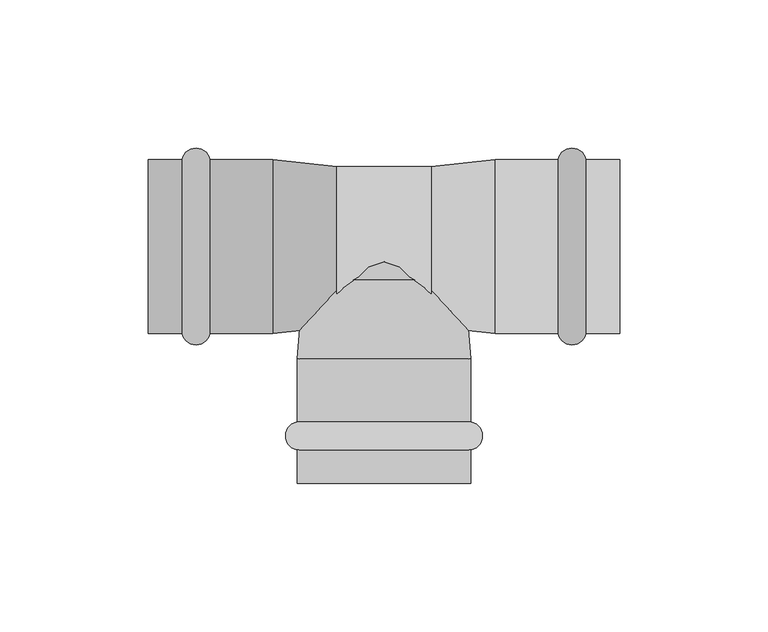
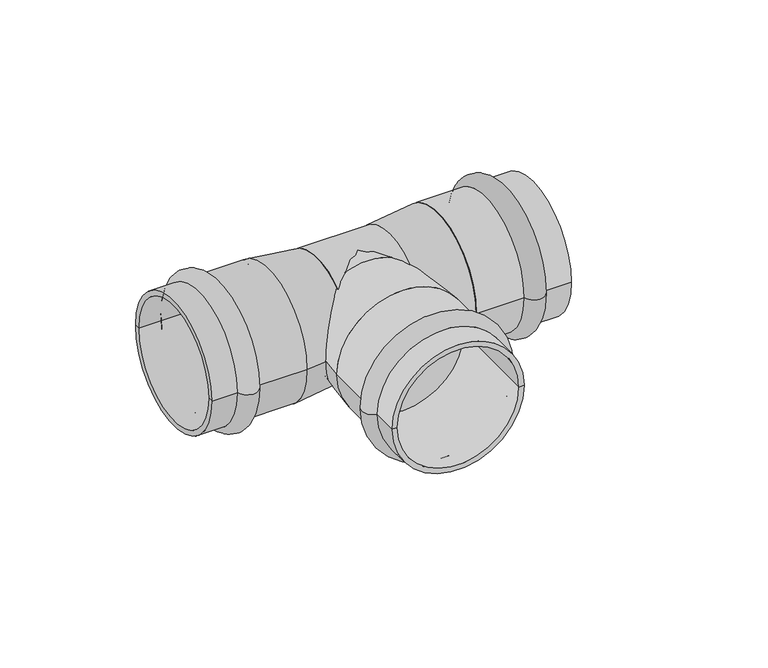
"""IFC4 building model written with IfcOpenShell, lengths in millimetres: pipe fitting geometry, VALTEC_VTi.931.I_Тройник_Ннержавеющая сталь : VTi.931.I."""

from ifc_helpers import new_model, si_unit, point, frame, origin, origin_2d, place, context, project, spatial, polyline, circle_curve, ellipse_curve, trimmed, segment, composite_curve, outline, extrude, source, transform, mapped, element, save
from ifc_brep_helpers import plane_surface, cylinder_surface, revolved_surface, advanced_brep


def pipe_fitting_069f0e93(model_context):
    return source(origin(), model_context, "Body", "SolidModel", [
        advanced_brep(
        [(29.3, -68.6148701, 0.0), (-29.3, -68.6148701, 0.0), (-29.3, -59.1851299, 0.0), (29.3, -59.1851299, 0.0), (29.3, -80.0, 0.0), (-29.3, -80.0, 0.0), (27.0, -80.0, 0.0), (-27.0, -80.0, 0.0), (27.0, -38.0, 0.0), (-27.0, -38.0, 0.0), (29.3, -38.0, 0.0), (-29.3, -38.0, 0.0)],
        [
            (0, 1, circle_curve(frame((0.0, -68.6148701, 0.0), z_axis=(0.0, 1.0, 0.0), x_axis=(-1.0, 0.0, 0.0)), 29.3)),
            (1, 2, circle_curve(frame((-28.4, -63.9, 0.0), z_axis=(0.0, 0.0, -1.0), x_axis=(0.0, 1.0, 0.0)), 4.8)),
            (2, 3, circle_curve(frame((0.0, -59.1851299, 0.0), z_axis=(0.0, -1.0, 0.0), x_axis=(-1.0, 0.0, 0.0)), 29.3)),
            (3, 0, circle_curve(frame((28.4, -63.9, 0.0), z_axis=(0.0, 0.0, -1.0), x_axis=(0.0, 1.0, 0.0)), 4.8)),
            (1, 0, circle_curve(frame((0.0, -68.6148701, 0.0), z_axis=(0.0, 1.0, 0.0), x_axis=(-1.0, 0.0, 0.0)), 29.3)),
            (3, 2, circle_curve(frame((0.0, -59.1851299, 0.0), z_axis=(0.0, -1.0, 0.0), x_axis=(-1.0, 0.0, 0.0)), 29.3)),
            (4, 5, circle_curve(frame((0.0, -80.0, 0.0), z_axis=(0.0, 1.0, 0.0), x_axis=(-1.0, 0.0, 0.0)), 29.3)),
            (5, 1),
            (0, 4),
            (5, 4, circle_curve(frame((0.0, -80.0, 0.0), z_axis=(0.0, 1.0, 0.0), x_axis=(-1.0, 0.0, 0.0)), 29.3)),
            (6, 7, circle_curve(frame((0.0, -80.0, 0.0), z_axis=(0.0, 1.0, 0.0), x_axis=(-1.0, 0.0, 0.0)), 27.0)),
            (7, 5),
            (4, 6),
            (7, 6, circle_curve(frame((0.0, -80.0, 0.0), z_axis=(0.0, 1.0, 0.0), x_axis=(-1.0, 0.0, 0.0)), 27.0)),
            (8, 9, circle_curve(frame((0.0, -38.0, 0.0), z_axis=(0.0, 1.0, 0.0), x_axis=(-1.0, 0.0, 0.0)), 27.0)),
            (9, 7),
            (6, 8),
            (9, 8, circle_curve(frame((0.0, -38.0, 0.0), z_axis=(0.0, 1.0, 0.0), x_axis=(-1.0, 0.0, 0.0)), 27.0)),
            (10, 11, circle_curve(frame((0.0, -38.0, 0.0), z_axis=(0.0, 1.0, 0.0), x_axis=(-1.0, 0.0, 0.0)), 29.3)),
            (11, 9),
            (8, 10),
            (11, 10, circle_curve(frame((0.0, -38.0, 0.0), z_axis=(0.0, 1.0, 0.0), x_axis=(-1.0, 0.0, 0.0)), 29.3)),
            (2, 11),
            (10, 3),
        ],
        [
            revolved_surface(trimmed(ellipse_curve(frame((-28.4, -63.9, 0.0), z_axis=(0.0, 0.0, 1.0), x_axis=(0.0, 1.0, 0.0)), 4.8, 4.8), [point((-29.3, -59.1851299, 0.0))], [point((-29.3, -68.6148701, 0.0))], True, "CARTESIAN"), (0.0, -83.5364426, 0.0), (0.0, -1.0, 0.0)),
            cylinder_surface(frame((0.0, -83.5364426, 0.0), z_axis=(0.0, -1.0, 0.0), x_axis=(-1.0, 0.0, 0.0)), 29.3),
            plane_surface(frame((0.0, -80.0, 0.0), z_axis=(0.0, -1.0, 0.0), x_axis=(-1.0, 0.0, 0.0))),
            revolved_surface(polyline([(-27.0, -80.0, 0.0), (-27.0, -38.0, 0.0)]), (0.0, -83.5364426, 0.0), (0.0, -1.0, 0.0)),
            plane_surface(frame((0.0, -38.0, 0.0), z_axis=(0.0, 1.0, 0.0), x_axis=(-1.0, 0.0, 0.0))),
        ],
        [
            (0, [[1, 2, 3, 4]]),
            (0, [[5, -4, 6, -2]]),
            (1, [[7, 8, -1, 9]]),
            (1, [[10, -9, -5, -8]]),
            (2, [[11, 12, -7, 13]]),
            (2, [[14, -13, -10, -12]]),
            (3, [[15, 16, -11, 17]]),
            (3, [[18, -17, -14, -16]]),
            (4, [[19, 20, -15, 21]]),
            (4, [[22, -21, -18, -20]]),
            (1, [[-3, 23, -19, 24]]),
            (1, [[-6, -24, -22, -23]]),
        ],
    ),
        advanced_brep(
        [(68.1148701, 29.3, 0.0), (68.1148701, -29.3, 0.0), (58.6851299, -29.3, 0.0), (58.6851299, 29.3, 0.0), (79.5, 29.3, 0.0), (79.5, -29.3, 0.0), (79.5, 27.0, 0.0), (79.5, -27.0, 0.0), (37.5, 27.0, 0.0), (37.5, -27.0, 0.0), (37.5, 29.3, 0.0), (37.5, -29.3, 0.0)],
        [
            (0, 1, circle_curve(frame((68.1148701, 0.0, 0.0), z_axis=(-1.0, 0.0, 0.0), x_axis=(0.0, -1.0, 0.0)), 29.3)),
            (1, 2, circle_curve(frame((63.4, -28.4, 0.0), z_axis=(0.0, 0.0, -1.0), x_axis=(-1.0, 0.0, 0.0)), 4.8)),
            (2, 3, circle_curve(frame((58.6851299, 0.0, 0.0), z_axis=(1.0, 0.0, 0.0), x_axis=(0.0, -1.0, 0.0)), 29.3)),
            (3, 0, circle_curve(frame((63.4, 28.4, 0.0), z_axis=(0.0, 0.0, -1.0), x_axis=(-1.0, 0.0, 0.0)), 4.8)),
            (1, 0, circle_curve(frame((68.1148701, 0.0, 0.0), z_axis=(-1.0, 0.0, 0.0), x_axis=(0.0, -1.0, 0.0)), 29.3)),
            (3, 2, circle_curve(frame((58.6851299, 0.0, 0.0), z_axis=(1.0, 0.0, 0.0), x_axis=(0.0, -1.0, 0.0)), 29.3)),
            (4, 5, circle_curve(frame((79.5, 0.0, 0.0), z_axis=(-1.0, 0.0, 0.0), x_axis=(0.0, -1.0, 0.0)), 29.3)),
            (5, 1),
            (0, 4),
            (5, 4, circle_curve(frame((79.5, 0.0, 0.0), z_axis=(-1.0, 0.0, 0.0), x_axis=(0.0, -1.0, 0.0)), 29.3)),
            (6, 7, circle_curve(frame((79.5, 0.0, 0.0), z_axis=(-1.0, 0.0, 0.0), x_axis=(0.0, -1.0, 0.0)), 27.0)),
            (7, 5),
            (4, 6),
            (7, 6, circle_curve(frame((79.5, 0.0, 0.0), z_axis=(-1.0, 0.0, 0.0), x_axis=(0.0, -1.0, 0.0)), 27.0)),
            (8, 9, circle_curve(frame((37.5, 0.0, 0.0), z_axis=(-1.0, 0.0, 0.0), x_axis=(0.0, -1.0, 0.0)), 27.0)),
            (9, 7),
            (6, 8),
            (9, 8, circle_curve(frame((37.5, 0.0, 0.0), z_axis=(-1.0, 0.0, 0.0), x_axis=(0.0, -1.0, 0.0)), 27.0)),
            (10, 11, circle_curve(frame((37.5, 0.0, 0.0), z_axis=(-1.0, 0.0, 0.0), x_axis=(0.0, -1.0, 0.0)), 29.3)),
            (11, 9),
            (8, 10),
            (11, 10, circle_curve(frame((37.5, 0.0, 0.0), z_axis=(-1.0, 0.0, 0.0), x_axis=(0.0, -1.0, 0.0)), 29.3)),
            (2, 11),
            (10, 3),
        ],
        [
            revolved_surface(trimmed(ellipse_curve(frame((63.4, -28.4, 0.0), z_axis=(0.0, 0.0, 1.0), x_axis=(-1.0, 0.0, 0.0)), 4.8, 4.8), [point((58.6851299, -29.3, 0.0))], [point((68.1148701, -29.3, 0.0))], True, "CARTESIAN"), (83.0364426, 0.0, 0.0), (1.0, 0.0, 0.0)),
            cylinder_surface(frame((83.0364426, 0.0, 0.0), z_axis=(1.0, 0.0, 0.0), x_axis=(0.0, -1.0, 0.0)), 29.3),
            plane_surface(frame((79.5, 0.0, 0.0), z_axis=(1.0, 0.0, 0.0), x_axis=(0.0, -1.0, 0.0))),
            revolved_surface(polyline([(79.5, -27.0, 0.0), (37.5, -27.0, 0.0)]), (83.0364426, 0.0, 0.0), (1.0, 0.0, 0.0)),
            plane_surface(frame((37.5, 0.0, 0.0), z_axis=(-1.0, 0.0, 0.0), x_axis=(0.0, -1.0, 0.0))),
        ],
        [
            (0, [[1, 2, 3, 4]]),
            (0, [[5, -4, 6, -2]]),
            (1, [[7, 8, -1, 9]]),
            (1, [[10, -9, -5, -8]]),
            (2, [[11, 12, -7, 13]]),
            (2, [[14, -13, -10, -12]]),
            (3, [[15, 16, -11, 17]]),
            (3, [[18, -17, -14, -16]]),
            (4, [[19, 20, -15, 21]]),
            (4, [[22, -21, -18, -20]]),
            (1, [[-3, 23, -19, 24]]),
            (1, [[-6, -24, -22, -23]]),
        ],
    ),
        advanced_brep(
        [(-68.1148701, -29.3, 0.0), (-68.1148701, 29.3, 0.0), (-58.6851299, 29.3, 0.0), (-58.6851299, -29.3, 0.0), (-79.5, -29.3, 0.0), (-79.5, 29.3, 0.0), (-79.5, -27.0, 0.0), (-79.5, 27.0, 0.0), (-37.5, -27.0, 0.0), (-37.5, 27.0, 0.0), (-37.5, -29.3, 0.0), (-37.5, 29.3, 0.0)],
        [
            (0, 1, circle_curve(frame((-68.1148701, 0.0, 0.0), z_axis=(1.0, 0.0, 0.0), x_axis=(0.0, 1.0, 0.0)), 29.3)),
            (1, 2, circle_curve(frame((-63.4, 28.4, 0.0), z_axis=(0.0, 0.0, -1.0), x_axis=(1.0, 0.0, 0.0)), 4.8)),
            (2, 3, circle_curve(frame((-58.6851299, 0.0, 0.0), z_axis=(-1.0, 0.0, 0.0), x_axis=(0.0, 1.0, 0.0)), 29.3)),
            (3, 0, circle_curve(frame((-63.4, -28.4, 0.0), z_axis=(0.0, 0.0, -1.0), x_axis=(1.0, 0.0, 0.0)), 4.8)),
            (1, 0, circle_curve(frame((-68.1148701, 0.0, 0.0), z_axis=(1.0, 0.0, 0.0), x_axis=(0.0, 1.0, 0.0)), 29.3)),
            (3, 2, circle_curve(frame((-58.6851299, 0.0, 0.0), z_axis=(-1.0, 0.0, 0.0), x_axis=(0.0, 1.0, 0.0)), 29.3)),
            (4, 5, circle_curve(frame((-79.5, 0.0, 0.0), z_axis=(1.0, 0.0, 0.0), x_axis=(0.0, 1.0, 0.0)), 29.3)),
            (5, 1),
            (0, 4),
            (5, 4, circle_curve(frame((-79.5, 0.0, 0.0), z_axis=(1.0, 0.0, 0.0), x_axis=(0.0, 1.0, 0.0)), 29.3)),
            (6, 7, circle_curve(frame((-79.5, 0.0, 0.0), z_axis=(1.0, 0.0, 0.0), x_axis=(0.0, 1.0, 0.0)), 27.0)),
            (7, 5),
            (4, 6),
            (7, 6, circle_curve(frame((-79.5, 0.0, 0.0), z_axis=(1.0, 0.0, 0.0), x_axis=(0.0, 1.0, 0.0)), 27.0)),
            (8, 9, circle_curve(frame((-37.5, 0.0, 0.0), z_axis=(1.0, 0.0, 0.0), x_axis=(0.0, 1.0, 0.0)), 27.0)),
            (9, 7),
            (6, 8),
            (9, 8, circle_curve(frame((-37.5, 0.0, 0.0), z_axis=(1.0, 0.0, 0.0), x_axis=(0.0, 1.0, 0.0)), 27.0)),
            (10, 11, circle_curve(frame((-37.5, 0.0, 0.0), z_axis=(1.0, 0.0, 0.0), x_axis=(0.0, 1.0, 0.0)), 29.3)),
            (11, 9),
            (8, 10),
            (11, 10, circle_curve(frame((-37.5, 0.0, 0.0), z_axis=(1.0, 0.0, 0.0), x_axis=(0.0, 1.0, 0.0)), 29.3)),
            (2, 11),
            (10, 3),
        ],
        [
            revolved_surface(trimmed(ellipse_curve(frame((-63.4, 28.4, 0.0), z_axis=(0.0, 0.0, 1.0), x_axis=(1.0, 0.0, 0.0)), 4.8, 4.8), [point((-58.6851299, 29.3, 0.0))], [point((-68.1148701, 29.3, 0.0))], True, "CARTESIAN"), (-83.0364426, 0.0, 0.0), (-1.0, 0.0, 0.0)),
            cylinder_surface(frame((-83.0364426, 0.0, 0.0), z_axis=(-1.0, 0.0, 0.0), x_axis=(0.0, 1.0, 0.0)), 29.3),
            plane_surface(frame((-79.5, 0.0, 0.0), z_axis=(-1.0, 0.0, 0.0), x_axis=(0.0, 1.0, 0.0))),
            revolved_surface(polyline([(-79.5, 27.0, 0.0), (-37.5, 27.0, 0.0)]), (-83.0364426, 0.0, 0.0), (-1.0, 0.0, 0.0)),
            plane_surface(frame((-37.5, 0.0, 0.0), z_axis=(1.0, 0.0, 0.0), x_axis=(0.0, 1.0, 0.0))),
        ],
        [
            (0, [[1, 2, 3, 4]]),
            (0, [[5, -4, 6, -2]]),
            (1, [[7, 8, -1, 9]]),
            (1, [[10, -9, -5, -8]]),
            (2, [[11, 12, -7, 13]]),
            (2, [[14, -13, -10, -12]]),
            (3, [[15, 16, -11, 17]]),
            (3, [[18, -17, -14, -16]]),
            (4, [[19, 20, -15, 21]]),
            (4, [[22, -21, -18, -20]]),
            (1, [[-3, 23, -19, 24]]),
            (1, [[-6, -24, -22, -23]]),
        ],
    ),
        extrude(outline(composite_curve([segment(trimmed(circle_curve(origin_2d(), 27.0), [point((-27.0, 0.0))], [point((27.0, 0.0))], False, "CARTESIAN"), True, "CONTINUOUS"), segment(trimmed(circle_curve(origin_2d(), 27.0), [point((27.0, 0.0))], [point((-27.0, 0.0))], False, "CARTESIAN"), True, "CONTINUOUS")], self_intersect=False)), frame((-16.0, 0.0, 0.0), z_axis=(1.0, 0.0, 0.0), x_axis=(0.0, 1.0, 0.0)), (0.0, 0.0, 1.0), 32.0),
        advanced_brep(
        [(-29.3, -38.0, 0.0), (29.3, -38.0, 0.0), (-27.0, -11.3209826, 0.0), (27.0, -11.3209826, 0.0)],
        [
            (0, 1, circle_curve(frame((0.0, -38.0, 0.0), z_axis=(0.0, -1.0, 0.0), x_axis=(-1.0, 0.0, 0.0)), 29.3)),
            (1, 0, circle_curve(frame((0.0, -38.0, 0.0), z_axis=(0.0, -1.0, 0.0), x_axis=(1.0, 0.0, 0.0)), 29.3)),
            (2, 3, circle_curve(frame((0.0, -11.3209826, 0.0), z_axis=(0.0, 1.0, 0.0), x_axis=(1.0, 0.0, 0.0)), 27.0)),
            (3, 2, circle_curve(frame((0.0, -11.3209826, 0.0), z_axis=(0.0, 1.0, 0.0), x_axis=(-1.0, 0.0, 0.0)), 27.0)),
            (3, 1),
            (0, 2),
        ],
        [
            plane_surface(frame((0.0, -38.0, 0.0), z_axis=(0.0, -1.0, 0.0), x_axis=(0.0, 0.0, 1.0))),
            plane_surface(frame((0.0, -11.3209826, 0.0), z_axis=(0.0, 1.0, 0.0), x_axis=(0.0, 0.0, 1.0))),
            revolved_surface(polyline([(27.00000000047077, -11.32098259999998, 0.0), (29.3, -38.0, 0.0)]), (0.0, 301.8674826, 0.0), (0.0, -1.0, 0.0)),
            revolved_surface(polyline([(-27.00000000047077, -11.32098259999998, 0.0), (-29.3, -38.0, 0.0)]), (0.0, 301.8674826, 0.0), (0.0, -1.0, 0.0)),
        ],
        [
            (0, [[1, 2]]),
            (1, [[3, 4]]),
            (2, [[-4, 5, -1, 6]]),
            (3, [[-3, -6, -2, -5]]),
        ],
    ),
        extrude(outline(composite_curve([segment(trimmed(circle_curve(origin_2d(), 27.0), [point((0.0, -27.0))], [point((0.0, 27.0))], False, "CARTESIAN"), True, "CONTINUOUS"), segment(trimmed(circle_curve(origin_2d(), 27.0), [point((0.0, 27.0))], [point((0.0, -27.0))], False, "CARTESIAN"), True, "CONTINUOUS")], self_intersect=False)), frame((0.0, -11.3209826, 0.0), z_axis=(0.0, 1.0, 0.0), x_axis=(0.0, 0.0, 1.0)), (0.0, 0.0, 1.0), 11.3209826),
        advanced_brep(
        [(37.5, -29.3, 0.0), (37.5, 29.3, 0.0), (16.0, -27.0, 0.0), (16.0, 27.0, 0.0)],
        [
            (0, 1, circle_curve(frame((37.5, 0.0, 0.0), z_axis=(1.0, 0.0, 0.0), x_axis=(0.0, -1.0, 0.0)), 29.3)),
            (1, 0, circle_curve(frame((37.5, 0.0, 0.0), z_axis=(1.0, 0.0, 0.0), x_axis=(0.0, 1.0, 0.0)), 29.3)),
            (2, 3, circle_curve(frame((16.0, 0.0, 0.0), z_axis=(-1.0, 0.0, 0.0), x_axis=(0.0, 1.0, 0.0)), 27.0)),
            (3, 2, circle_curve(frame((16.0, 0.0, 0.0), z_axis=(-1.0, 0.0, 0.0), x_axis=(0.0, -1.0, 0.0)), 27.0)),
            (3, 1),
            (0, 2),
        ],
        [
            plane_surface(frame((37.5, 0.0, 0.0), z_axis=(1.0, 0.0, 0.0), x_axis=(0.0, 0.0, 1.0))),
            plane_surface(frame((16.0, 0.0, 0.0), z_axis=(-1.0, 0.0, 0.0), x_axis=(0.0, 0.0, 1.0))),
            revolved_surface(polyline([(16.0, 26.999999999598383, 0.0), (37.5, 29.3, 0.0)]), (-236.3913043, 0.0, 0.0), (1.0, 0.0, 0.0)),
            revolved_surface(polyline([(16.0, -26.999999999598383, 0.0), (37.5, -29.3, 0.0)]), (-236.3913043, 0.0, 0.0), (1.0, 0.0, 0.0)),
        ],
        [
            (0, [[1, 2]]),
            (1, [[3, 4]]),
            (2, [[-4, 5, -1, 6]]),
            (3, [[-3, -6, -2, -5]]),
        ],
    ),
        advanced_brep(
        [(-37.5, -29.3, 0.0), (-37.5, 29.3, 0.0), (-16.0, -27.0, 0.0), (-16.0, 27.0, 0.0)],
        [
            (0, 1, circle_curve(frame((-37.5, 0.0, 0.0), z_axis=(-1.0, 0.0, 0.0), x_axis=(0.0, -1.0, 0.0)), 29.3)),
            (1, 0, circle_curve(frame((-37.5, 0.0, 0.0), z_axis=(-1.0, 0.0, 0.0), x_axis=(0.0, 1.0, 0.0)), 29.3)),
            (2, 3, circle_curve(frame((-16.0, 0.0, 0.0), z_axis=(1.0, 0.0, 0.0), x_axis=(0.0, 1.0, 0.0)), 27.0)),
            (3, 2, circle_curve(frame((-16.0, 0.0, 0.0), z_axis=(1.0, 0.0, 0.0), x_axis=(0.0, -1.0, 0.0)), 27.0)),
            (2, 0),
            (1, 3),
        ],
        [
            plane_surface(frame((-37.5, 0.0, 0.0), z_axis=(-1.0, 0.0, 0.0), x_axis=(0.0, 0.0, -1.0))),
            plane_surface(frame((-16.0, 0.0, 0.0), z_axis=(1.0, 0.0, 0.0), x_axis=(0.0, 0.0, -1.0))),
            revolved_surface(polyline([(-16.0, -26.999999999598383, 0.0), (-37.5, -29.3, 0.0)]), (236.3913043, 0.0, 0.0), (-1.0, 0.0, 0.0)),
            revolved_surface(polyline([(-16.0, 26.999999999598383, 0.0), (-37.5, 29.3, 0.0)]), (236.3913043, 0.0, 0.0), (-1.0, 0.0, 0.0)),
        ],
        [
            (0, [[1, 2]]),
            (1, [[3, 4]]),
            (2, [[-3, 5, -2, 6]]),
            (3, [[-4, -6, -1, -5]]),
        ],
    ),
    ])


if __name__ == "__main__":
    model = new_model("IFC4")
    model_context = context("Model", 3, world=origin())
    ifc_project = project(units=[si_unit("LENGTHUNIT", "METRE", prefix="MILLI")], contexts=[model_context])
    site = spatial("IfcSite", under=ifc_project)
    building = spatial("IfcBuilding", under=site)
    placement = place(None, origin())
    pipe_fitting_shape = pipe_fitting_069f0e93(model_context)
    element("IfcPipeFitting", 1, ObjectType="VALTEC_VTi.931.I_Тройник_Ннержавеющая сталь : VTi.931.I", at=placement, inside=building, context=model_context, shape_type="MappedRepresentation", body=[
        mapped(pipe_fitting_shape, transform((0.0, 0.0, 0.0), x_axis=(1.0, 0.0, 0.0), y_axis=(0.0, 1.0, 0.0), z_axis=(0.0, 0.0, 1.0))),
    ])
    save(model, "model.ifc")
